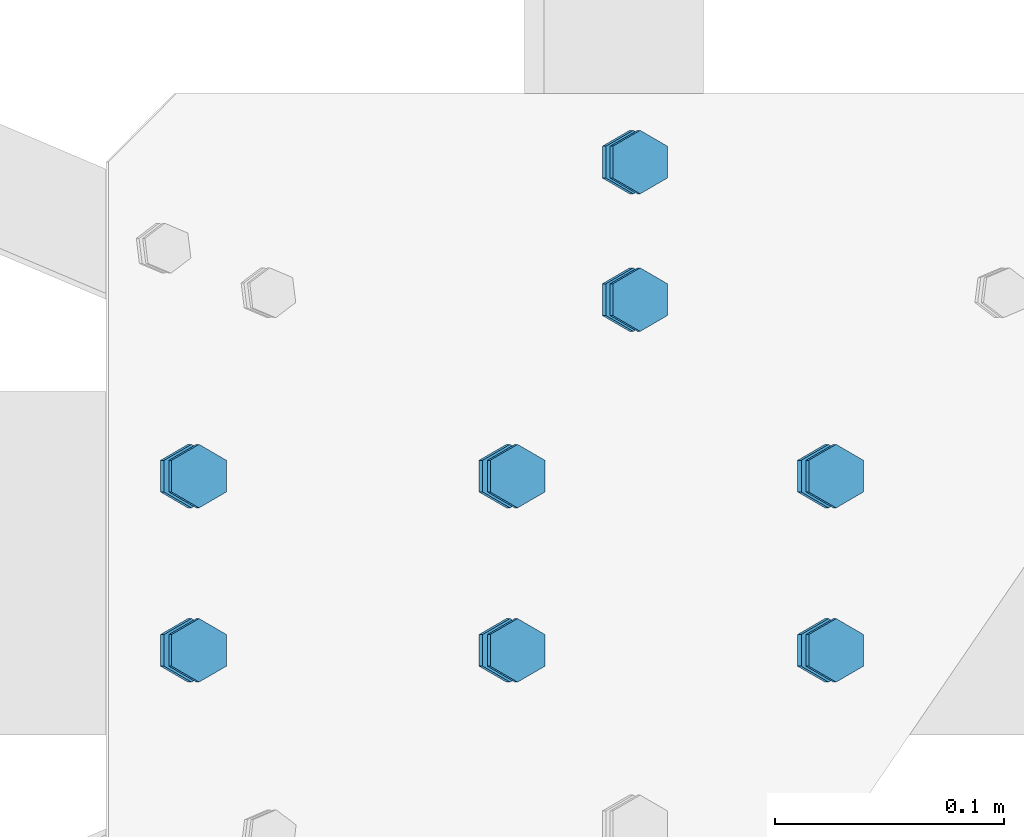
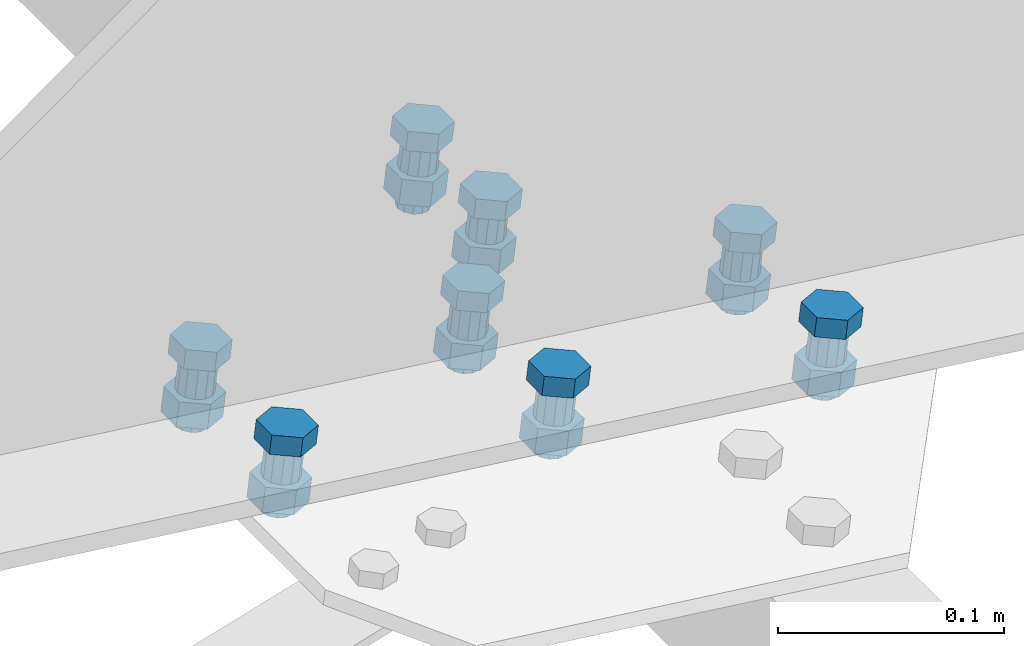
# One storey, part 207 of 3134: 2 mechanical fasteners, 2 elements without a shape of their own.
"""IFC2X3 building model written with IfcOpenShell, lengths in millimetres."""

from ifc_helpers import new_model, si_unit, frame, origin_with_axes, place, context, subcontext, project, spatial, faceted_brep, source, transform, mapped, material, type_object, element, aggregate, save


model = new_model("IFC2X3")

# Units and contexts
model_context = context("Model", 3, precision=1e-05, world=origin_with_axes())
body_context = subcontext(model_context, "Body", "Model", "MODEL_VIEW")
ifc_project = project(units=[si_unit("LENGTHUNIT", "METRE", prefix="MILLI"), si_unit("AREAUNIT", "SQUARE_METRE"), si_unit("VOLUMEUNIT", "CUBIC_METRE"), si_unit("MASSUNIT", "GRAM", prefix="KILO"), si_unit("TIMEUNIT", "SECOND"), si_unit("PLANEANGLEUNIT", "RADIAN"), si_unit("SOLIDANGLEUNIT", "STERADIAN"), si_unit("THERMODYNAMICTEMPERATUREUNIT", "DEGREE_CELSIUS"), si_unit("LUMINOUSINTENSITYUNIT", "LUMEN")], contexts=[model_context])

# Site, building, storey
site_placement = place(None, origin_with_axes())
site = spatial("IfcSite", under=ifc_project, at=site_placement, CompositionType="ELEMENT")
building_placement = place(site_placement, origin_with_axes())
building = spatial("IfcBuilding", under=site, at=building_placement, Name="Undefined", CompositionType="ELEMENT")
storey_placement = place(building_placement, origin_with_axes())
storey = spatial("IfcBuildingStorey", under=building, at=storey_placement, Name="Undefined", CompositionType="ELEMENT", Elevation=0.0)

# Assembly, mechanical fastener
assembly_1_placement = place(storey_placement, origin_with_axes())
assembly_1 = element("IfcElementAssembly", 1, at=assembly_1_placement, inside=storey, Name="300", AssemblyPlace="NOTDEFINED", PredefinedType="RIGID_FRAME")
ifc_material = material(Name="8.8")
mechanical_fastener_type = type_object("IfcMechanicalFastenerType", Name="Bolt assembly")
shared_shape_1 = source(origin_with_axes(), body_context, "Body", "Brep", [
    faceted_brep([(13.856406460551, -19.199990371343, 0.0), (6.92820323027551, -19.199990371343, 12.0), (-6.92820323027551, -19.199990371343, 12.0), (-13.856406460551, -19.199990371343, 1.69692038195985e-15), (-6.92820323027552, -19.199990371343, -12.0), (6.9282032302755, -19.199990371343, -12.0), (6.9282032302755, -9.19999037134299, -12.0), (-6.92820323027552, -9.19999037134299, -12.0), (-13.856406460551, -9.19999037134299, 1.69692038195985e-15), (-6.92820323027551, -9.19999037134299, 12.0), (6.92820323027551, -9.19999037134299, 12.0), (13.856406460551, -9.19999037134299, 0.0), (8.0, -9.19999037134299, 0.0), (6.92820323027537, -9.19999037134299, 4.00000000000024), (3.99999999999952, -9.19999037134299, 6.92820323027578), (-8.29068785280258e-13, -9.19999037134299, 8.0), (-4.00000000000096, -9.19999037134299, 6.92820323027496), (-6.9282032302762, -9.19999037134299, 3.99999999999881), (-8.0, -9.19999037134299, -1.65813757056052e-12), (-6.92820323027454, -9.19999037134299, -4.00000000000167), (-3.99999999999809, -9.19999037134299, -6.92820323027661), (2.47832457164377e-12, -9.19999037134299, -8.0), (4.00000000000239, -9.19999037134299, -6.92820323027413), (6.92820323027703, -9.19999037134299, -3.99999999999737), (6.92820323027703, 25.800009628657, -3.99999999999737), (4.00000000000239, 25.800009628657, -6.92820323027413), (2.47832457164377e-12, 25.800009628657, -8.0), (-3.99999999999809, 25.800009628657, -6.92820323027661), (-6.92820323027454, 25.800009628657, -4.00000000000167), (-8.0, 25.800009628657, -1.65813757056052e-12), (-6.9282032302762, 25.800009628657, 3.99999999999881), (-4.00000000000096, 25.800009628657, 6.92820323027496), (-8.29068785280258e-13, 25.800009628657, 8.0), (3.99999999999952, 25.800009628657, 6.92820323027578), (6.92820323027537, 25.800009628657, 4.00000000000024), (8.0, 25.800009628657, 0.0), (13.856406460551, 8.00000637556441, 0.0), (6.92820323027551, 8.00000637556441, 12.0), (-6.92820323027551, 8.00000637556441, 12.0), (-13.856406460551, 8.00000637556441, 1.69692038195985e-15), (-6.92820323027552, 8.00000637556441, -12.0), (6.9282032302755, 8.00000637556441, -12.0), (6.9282032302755, 21.0000063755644, -12.0), (-6.92820323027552, 21.0000063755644, -12.0), (-13.856406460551, 21.0000063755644, 1.69692038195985e-15), (-6.92820323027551, 21.0000063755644, 12.0), (6.92820323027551, 21.0000063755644, 12.0), (13.856406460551, 21.0000063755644, 0.0)], [[[0, 1, 2, 3, 4, 5]], [[6, 7, 8, 9, 10, 11]], [[0, 11, 10, 1]], [[1, 10, 9, 2]], [[2, 9, 8, 3]], [[3, 8, 7, 4]], [[4, 7, 6, 5]], [[5, 6, 11, 0]], [[12, 13, 14, 15, 16, 17, 18, 19, 20, 21, 22, 23]], [[24, 25, 26, 27, 28, 29, 30, 31, 32, 33, 34, 35]], [[12, 35, 34, 13]], [[13, 34, 33, 14]], [[14, 33, 32, 15]], [[15, 32, 31, 16]], [[16, 31, 30, 17]], [[17, 30, 29, 18]], [[18, 29, 28, 19]], [[19, 28, 27, 20]], [[20, 27, 26, 21]], [[21, 26, 25, 22]], [[22, 25, 24, 23]], [[23, 24, 35, 12]], [[36, 37, 38, 39, 40, 41]], [[42, 43, 44, 45, 46, 47]], [[36, 47, 46, 37]], [[37, 46, 45, 38]], [[38, 45, 44, 39]], [[39, 44, 43, 40]], [[40, 43, 42, 41]], [[41, 42, 47, 36]]]),
    faceted_brep([(9.0, -0.1, 0.0), (7.79422863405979, -0.1, 4.50000000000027), (4.49999999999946, -0.1, 7.79422863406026), (-9.3270238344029e-13, -0.1, 9.0), (-4.50000000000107, -0.1, 7.79422863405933), (-7.79422863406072, -0.1, 4.49999999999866), (-9.0, -0.1, -1.86540476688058e-12), (-7.79422863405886, -0.1, -4.50000000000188), (-4.49999999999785, -0.1, -7.79422863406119), (2.78811514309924e-12, -0.1, -9.0), (4.50000000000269, -0.1, -7.7942286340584), (7.79422863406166, -0.1, -4.49999999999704), (7.79422863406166, 8.00000000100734, -4.49999999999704), (4.50000000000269, 8.00000000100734, -7.7942286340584), (2.78811514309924e-12, 8.00000000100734, -9.0), (-4.49999999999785, 8.00000000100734, -7.79422863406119), (-7.79422863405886, 8.00000000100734, -4.50000000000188), (-9.0, 8.00000000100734, -1.86540476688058e-12), (-7.79422863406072, 8.00000000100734, 4.49999999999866), (-4.50000000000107, 8.00000000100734, 7.79422863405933), (-9.3270238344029e-13, 8.00000000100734, 9.0), (4.49999999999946, 8.00000000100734, 7.79422863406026), (7.79422863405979, 8.00000000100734, 4.50000000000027), (9.0, 8.00000000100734, 0.0), (9.0, -9.09999037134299, 0.0), (7.79422863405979, -9.09999037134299, 4.50000000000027), (4.49999999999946, -9.09999037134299, 7.79422863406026), (-9.3270238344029e-13, -9.09999037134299, 9.0), (-4.50000000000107, -9.09999037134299, 7.79422863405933), (-7.79422863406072, -9.09999037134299, 4.49999999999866), (-9.0, -9.09999037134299, -1.86540476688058e-12), (-7.79422863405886, -9.09999037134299, -4.50000000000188), (-4.49999999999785, -9.09999037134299, -7.79422863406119), (2.78811514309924e-12, -9.09999037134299, -9.0), (4.50000000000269, -9.09999037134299, -7.7942286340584), (7.79422863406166, -9.09999037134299, -4.49999999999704), (7.79422863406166, 0.100000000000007, -4.49999999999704), (4.50000000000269, 0.100000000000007, -7.7942286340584), (2.78811514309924e-12, 0.100000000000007, -9.0), (-4.49999999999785, 0.100000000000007, -7.79422863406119), (-7.79422863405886, 0.100000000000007, -4.50000000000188), (-9.0, 0.100000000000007, -1.86540476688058e-12), (-7.79422863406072, 0.100000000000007, 4.49999999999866), (-4.50000000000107, 0.100000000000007, 7.79422863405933), (-9.3270238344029e-13, 0.100000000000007, 9.0), (4.49999999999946, 0.100000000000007, 7.79422863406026), (7.79422863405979, 0.100000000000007, 4.50000000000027), (9.0, 0.100000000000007, 0.0)], [[[0, 1, 2, 3, 4, 5, 6, 7, 8, 9, 10, 11]], [[12, 13, 14, 15, 16, 17, 18, 19, 20, 21, 22, 23]], [[0, 23, 22, 1]], [[1, 22, 21, 2]], [[2, 21, 20, 3]], [[3, 20, 19, 4]], [[4, 19, 18, 5]], [[5, 18, 17, 6]], [[6, 17, 16, 7]], [[7, 16, 15, 8]], [[8, 15, 14, 9]], [[9, 14, 13, 10]], [[10, 13, 12, 11]], [[11, 12, 23, 0]], [[24, 25, 26, 27, 28, 29, 30, 31, 32, 33, 34, 35]], [[36, 37, 38, 39, 40, 41, 42, 43, 44, 45, 46, 47]], [[24, 47, 46, 25]], [[25, 46, 45, 26]], [[26, 45, 44, 27]], [[27, 44, 43, 28]], [[28, 43, 42, 29]], [[29, 42, 41, 30]], [[30, 41, 40, 31]], [[31, 40, 39, 32]], [[32, 39, 38, 33]], [[33, 38, 37, 34]], [[34, 37, 36, 35]], [[35, 36, 47, 24]]]),
])
mechanical_fastener_1_placement = place(assembly_1_placement, frame((26633.3906860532, 45412.0, 4813.40180629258), z_axis=(-0.992623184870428, 0.0, 0.121240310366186), x_axis=(0.0, 1.0, 0.0)))
mechanical_fastener_1 = element("IfcMechanicalFastener", 2, at=mechanical_fastener_1_placement, type_object=mechanical_fastener_type, material=ifc_material, Name="Bolt assembly", NominalDiameter=16.0, NominalLength=35.0, context=body_context, shape_type="MappedRepresentation", body=[
    mapped(shared_shape_1, transform((0.0, 2.38287611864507e-10, -139.999999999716))),
    mapped(shared_shape_1, transform((76.0, 2.38287611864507e-10, -139.999999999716))),
    mapped(shared_shape_1, transform((0.0, 0.0, 0.0))),
    mapped(shared_shape_1, transform((76.0, 0.0, 0.0))),
    mapped(shared_shape_1, transform((0.0, -2.37378117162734e-10, 139.99999999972))),
    mapped(shared_shape_1, transform((76.0, -2.37378117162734e-10, 139.99999999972))),
])
aggregate(assembly_1, [mechanical_fastener_1])

assembly_2_placement = place(storey_placement, origin_with_axes())
assembly_2 = element("IfcElementAssembly", 3, at=assembly_2_placement, inside=storey, Name="PL8", AssemblyPlace="NOTDEFINED", PredefinedType="RIGID_FRAME")
shared_shape_2 = source(origin_with_axes(), body_context, "Body", "Brep", [
    faceted_brep([(13.856406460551, -10.0, 0.0), (6.92820323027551, -10.0, 12.0), (-6.92820323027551, -10.0, 12.0), (-13.856406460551, -10.0, 1.69692038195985e-15), (-6.92820323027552, -10.0, -12.0), (6.9282032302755, -10.0, -12.0), (6.9282032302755, 0.0, -12.0), (-6.92820323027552, 0.0, -12.0), (-13.856406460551, 0.0, 1.69692038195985e-15), (-6.92820323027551, 0.0, 12.0), (6.92820323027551, 0.0, 12.0), (13.856406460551, 0.0, 0.0), (8.0, 0.0, 0.0), (6.92820323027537, 0.0, 4.00000000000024), (3.99999999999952, 0.0, 6.92820323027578), (-8.29068785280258e-13, 0.0, 8.0), (-4.00000000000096, 0.0, 6.92820323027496), (-6.9282032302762, 0.0, 3.99999999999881), (-8.0, 0.0, -1.65813757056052e-12), (-6.92820323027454, 0.0, -4.00000000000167), (-3.99999999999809, 0.0, -6.92820323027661), (2.47832457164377e-12, 0.0, -8.0), (4.00000000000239, 0.0, -6.92820323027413), (6.92820323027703, 0.0, -3.99999999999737), (6.92820323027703, 35.0000000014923, -3.99999999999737), (4.00000000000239, 35.0000000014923, -6.92820323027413), (2.47832457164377e-12, 35.0000000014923, -8.0), (-3.99999999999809, 35.0000000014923, -6.92820323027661), (-6.92820323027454, 35.0000000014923, -4.00000000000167), (-8.0, 35.0000000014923, -1.65813757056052e-12), (-6.9282032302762, 35.0000000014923, 3.99999999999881), (-4.00000000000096, 35.0000000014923, 6.92820323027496), (-8.29068785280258e-13, 35.0000000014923, 8.0), (3.99999999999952, 35.0000000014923, 6.92820323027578), (6.92820323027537, 35.0000000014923, 4.00000000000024), (8.0, 35.0000000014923, 0.0), (13.856406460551, 14.9999995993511, 0.0), (6.92820323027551, 14.9999995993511, 12.0), (-6.92820323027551, 14.9999995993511, 12.0), (-13.856406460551, 14.9999995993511, 1.69692038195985e-15), (-6.92820323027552, 14.9999995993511, -12.0), (6.9282032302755, 14.9999995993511, -12.0), (6.9282032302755, 27.9999995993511, -12.0), (-6.92820323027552, 27.9999995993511, -12.0), (-13.856406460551, 27.9999995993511, 1.69692038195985e-15), (-6.92820323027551, 27.9999995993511, 12.0), (6.92820323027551, 27.9999995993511, 12.0), (13.856406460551, 27.9999995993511, 0.0)], [[[0, 1, 2, 3, 4, 5]], [[6, 7, 8, 9, 10, 11]], [[0, 11, 10, 1]], [[1, 10, 9, 2]], [[2, 9, 8, 3]], [[3, 8, 7, 4]], [[4, 7, 6, 5]], [[5, 6, 11, 0]], [[12, 13, 14, 15, 16, 17, 18, 19, 20, 21, 22, 23]], [[24, 25, 26, 27, 28, 29, 30, 31, 32, 33, 34, 35]], [[12, 35, 34, 13]], [[13, 34, 33, 14]], [[14, 33, 32, 15]], [[15, 32, 31, 16]], [[16, 31, 30, 17]], [[17, 30, 29, 18]], [[18, 29, 28, 19]], [[19, 28, 27, 20]], [[20, 27, 26, 21]], [[21, 26, 25, 22]], [[22, 25, 24, 23]], [[23, 24, 35, 12]], [[36, 37, 38, 39, 40, 41]], [[42, 43, 44, 45, 46, 47]], [[36, 47, 46, 37]], [[37, 46, 45, 38]], [[38, 45, 44, 39]], [[39, 44, 43, 40]], [[40, 43, 42, 41]], [[41, 42, 47, 36]]]),
    faceted_brep([(9.0, 7.9, 0.0), (7.79422863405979, 7.9, 4.50000000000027), (4.49999999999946, 7.9, 7.79422863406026), (-9.3270238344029e-13, 7.9, 9.0), (-4.50000000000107, 7.9, 7.79422863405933), (-7.79422863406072, 7.9, 4.49999999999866), (-9.0, 7.9, -1.86540476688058e-12), (-7.79422863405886, 7.9, -4.50000000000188), (-4.49999999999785, 7.9, -7.79422863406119), (2.78811514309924e-12, 7.9, -9.0), (4.50000000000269, 7.9, -7.7942286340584), (7.79422863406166, 7.9, -4.49999999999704), (7.79422863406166, 14.9999995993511, -4.49999999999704), (4.50000000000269, 14.9999995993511, -7.7942286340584), (2.78811514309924e-12, 14.9999995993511, -9.0), (-4.49999999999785, 14.9999995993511, -7.79422863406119), (-7.79422863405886, 14.9999995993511, -4.50000000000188), (-9.0, 14.9999995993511, -1.86540476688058e-12), (-7.79422863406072, 14.9999995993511, 4.49999999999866), (-4.50000000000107, 14.9999995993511, 7.79422863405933), (-9.3270238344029e-13, 14.9999995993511, 9.0), (4.49999999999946, 14.9999995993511, 7.79422863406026), (7.79422863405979, 14.9999995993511, 4.50000000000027), (9.0, 14.9999995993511, 0.0), (9.0, 0.100000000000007, 0.0), (7.79422863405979, 0.100000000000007, 4.50000000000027), (4.49999999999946, 0.100000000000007, 7.79422863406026), (-9.3270238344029e-13, 0.100000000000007, 9.0), (-4.50000000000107, 0.100000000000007, 7.79422863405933), (-7.79422863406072, 0.100000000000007, 4.49999999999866), (-9.0, 0.100000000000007, -1.86540476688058e-12), (-7.79422863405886, 0.100000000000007, -4.50000000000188), (-4.49999999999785, 0.100000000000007, -7.79422863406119), (2.78811514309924e-12, 0.100000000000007, -9.0), (4.50000000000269, 0.100000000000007, -7.7942286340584), (7.79422863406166, 0.100000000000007, -4.49999999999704), (7.79422863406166, 8.1, -4.49999999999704), (4.50000000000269, 8.1, -7.7942286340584), (2.78811514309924e-12, 8.1, -9.0), (-4.49999999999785, 8.1, -7.79422863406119), (-7.79422863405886, 8.1, -4.50000000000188), (-9.0, 8.1, -1.86540476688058e-12), (-7.79422863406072, 8.1, 4.49999999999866), (-4.50000000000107, 8.1, 7.79422863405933), (-9.3270238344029e-13, 8.1, 9.0), (4.49999999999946, 8.1, 7.79422863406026), (7.79422863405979, 8.1, 4.50000000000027), (9.0, 8.1, 0.0)], [[[0, 1, 2, 3, 4, 5, 6, 7, 8, 9, 10, 11]], [[12, 13, 14, 15, 16, 17, 18, 19, 20, 21, 22, 23]], [[0, 23, 22, 1]], [[1, 22, 21, 2]], [[2, 21, 20, 3]], [[3, 20, 19, 4]], [[4, 19, 18, 5]], [[5, 18, 17, 6]], [[6, 17, 16, 7]], [[7, 16, 15, 8]], [[8, 15, 14, 9]], [[9, 14, 13, 10]], [[10, 13, 12, 11]], [[11, 12, 23, 0]], [[24, 25, 26, 27, 28, 29, 30, 31, 32, 33, 34, 35]], [[36, 37, 38, 39, 40, 41, 42, 43, 44, 45, 46, 47]], [[24, 47, 46, 25]], [[25, 46, 45, 26]], [[26, 45, 44, 27]], [[27, 44, 43, 28]], [[28, 43, 42, 29]], [[29, 42, 41, 30]], [[30, 41, 40, 31]], [[31, 40, 39, 32]], [[32, 39, 38, 33]], [[33, 38, 37, 34]], [[34, 37, 36, 35]], [[35, 36, 47, 24]]]),
])
mechanical_fastener_2_placement = place(assembly_2_placement, frame((26687.9849612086, 45625.0, 4806.73358922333), z_axis=(0.992623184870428, 0.0, -0.121240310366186), x_axis=(0.0, -1.0, 0.0)))
mechanical_fastener_2 = element("IfcMechanicalFastener", 4, at=mechanical_fastener_2_placement, type_object=mechanical_fastener_type, material=ifc_material, Name="Bolt assembly", NominalDiameter=16.0, NominalLength=35.0, context=body_context, shape_type="MappedRepresentation", body=[
    mapped(shared_shape_2, transform((0.0, 0.0, 0.0))),
    mapped(shared_shape_2, transform((59.9999999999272, 0.0, 5.40239852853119e-10))),
])
aggregate(assembly_2, [mechanical_fastener_2])

save(model, "model.ifc")
